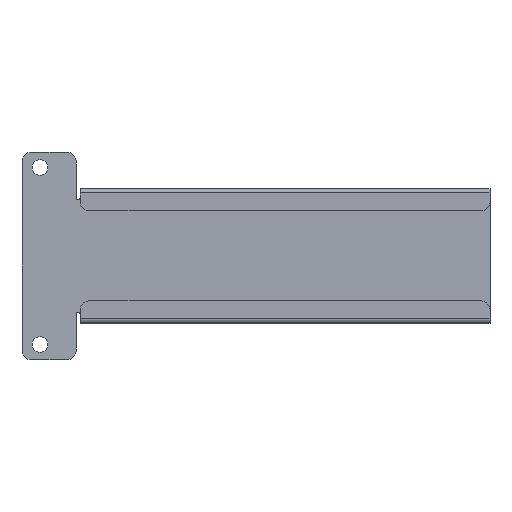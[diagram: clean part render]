
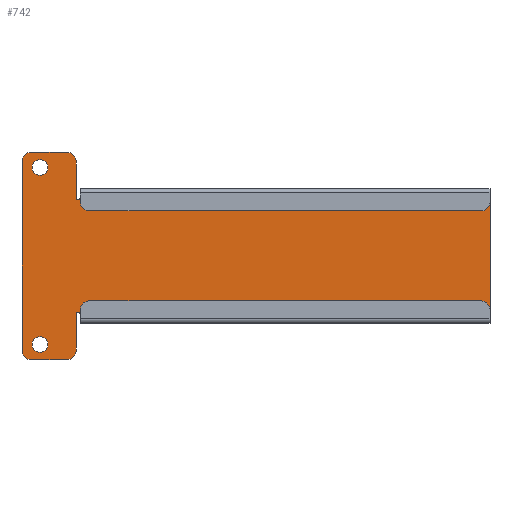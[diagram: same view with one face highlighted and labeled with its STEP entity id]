
A CAD part, top view. The second image highlights one B-rep face of the part: STEP entity #742.
In plain terms, the highlighted planar face has unit normal (0, 0, 1).
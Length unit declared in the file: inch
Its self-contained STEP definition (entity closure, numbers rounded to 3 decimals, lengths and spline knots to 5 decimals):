
#79=CARTESIAN_POINT('',(0.25,0.21,0.062));
#80=DIRECTION('',(0.,0.,-1.));
#81=DIRECTION('',(1.,0.,0.));
#82=AXIS2_PLACEMENT_3D('',#79,#80,#81);
#84=CARTESIAN_POINT('',(0.25,0.21,0.062));
#85=DIRECTION('',(0.,0.,-1.));
#86=DIRECTION('',(-1.,0.,0.));
#87=AXIS2_PLACEMENT_3D('',#84,#85,#86);
#89=CARTESIAN_POINT('',(0.25,2.67,0.062));
#90=DIRECTION('',(0.,0.,-1.));
#91=DIRECTION('',(1.,0.,0.));
#92=AXIS2_PLACEMENT_3D('',#89,#90,#91);
#94=CARTESIAN_POINT('',(0.25,2.67,0.062));
#95=DIRECTION('',(0.,0.,-1.));
#96=DIRECTION('',(-1.,0.,0.));
#97=AXIS2_PLACEMENT_3D('',#94,#95,#96);
#99=DIRECTION('',(-1.,0.,0.));
#100=VECTOR('',#99,0.51);
#101=CARTESIAN_POINT('',(0.63,2.88,0.062));
#102=LINE('',#101,#100);
#103=DIRECTION('',(0.,1.,0.));
#104=VECTOR('',#103,0.508);
#105=CARTESIAN_POINT('',(0.75,2.252,0.062));
#106=LINE('',#105,#104);
#107=CARTESIAN_POINT('',(0.78,2.252,0.062));
#108=DIRECTION('',(0.,0.,-1.));
#109=DIRECTION('',(1.,0.,0.));
#110=AXIS2_PLACEMENT_3D('',#107,#108,#109);
#112=DIRECTION('',(0.,-1.,0.));
#113=VECTOR('',#112,0.063);
#114=CARTESIAN_POINT('',(0.81,2.315,0.062));
#115=LINE('',#114,#113);
#116=DIRECTION('',(-1.,0.,0.));
#117=VECTOR('',#116,5.69);
#118=CARTESIAN_POINT('',(6.5,2.315,0.062));
#119=LINE('',#118,#117);
#120=DIRECTION('',(0.,1.,0.));
#121=VECTOR('',#120,1.75);
#122=CARTESIAN_POINT('',(6.5,0.565,0.062));
#123=LINE('',#122,#121);
#124=DIRECTION('',(-1.,0.,0.));
#125=VECTOR('',#124,5.69);
#126=CARTESIAN_POINT('',(6.5,0.565,0.062));
#127=LINE('',#126,#125);
#128=DIRECTION('',(0.,-1.,0.));
#129=VECTOR('',#128,0.063);
#130=CARTESIAN_POINT('',(0.81,0.628,0.062));
#131=LINE('',#130,#129);
#132=CARTESIAN_POINT('',(0.78,0.628,0.062));
#133=DIRECTION('',(0.,0.,-1.));
#134=DIRECTION('',(-1.,0.,0.));
#135=AXIS2_PLACEMENT_3D('',#132,#133,#134);
#137=DIRECTION('',(0.,1.,0.));
#138=VECTOR('',#137,0.508);
#139=CARTESIAN_POINT('',(0.75,0.12,0.062));
#140=LINE('',#139,#138);
#141=DIRECTION('',(1.,0.,0.));
#142=VECTOR('',#141,0.51);
#143=CARTESIAN_POINT('',(0.12,0.,0.062));
#144=LINE('',#143,#142);
#145=DIRECTION('',(0.,-1.,0.));
#146=VECTOR('',#145,2.64);
#147=CARTESIAN_POINT('',(0.,2.76,0.062));
#148=LINE('',#147,#146);
#161=CARTESIAN_POINT('',(0.12,2.76,0.062));
#162=DIRECTION('',(0.,0.,1.));
#163=DIRECTION('',(0.,1.,0.));
#164=AXIS2_PLACEMENT_3D('',#161,#162,#163);
#179=CARTESIAN_POINT('',(0.63,2.76,0.062));
#180=DIRECTION('',(0.,0.,1.));
#181=DIRECTION('',(1.,0.,0.));
#182=AXIS2_PLACEMENT_3D('',#179,#180,#181);
#437=CARTESIAN_POINT('',(0.63,0.12,0.062));
#438=DIRECTION('',(0.,0.,1.));
#439=DIRECTION('',(0.,-1.,0.));
#440=AXIS2_PLACEMENT_3D('',#437,#438,#439);
#455=CARTESIAN_POINT('',(0.12,0.12,0.062));
#456=DIRECTION('',(0.,0.,1.));
#457=DIRECTION('',(-1.,0.,0.));
#458=AXIS2_PLACEMENT_3D('',#455,#456,#457);
#485=CARTESIAN_POINT('',(0.359,0.21,0.062));
#486=CARTESIAN_POINT('',(0.141,0.21,0.062));
#487=VERTEX_POINT('',#485);
#488=VERTEX_POINT('',#486);
#489=CARTESIAN_POINT('',(0.359,2.67,0.062));
#490=CARTESIAN_POINT('',(0.141,2.67,0.062));
#491=VERTEX_POINT('',#489);
#492=VERTEX_POINT('',#490);
#493=CARTESIAN_POINT('',(0.75,0.628,0.062));
#494=CARTESIAN_POINT('',(0.81,0.628,0.062));
#495=VERTEX_POINT('',#493);
#496=VERTEX_POINT('',#494);
#497=CARTESIAN_POINT('',(0.81,2.252,0.062));
#498=CARTESIAN_POINT('',(0.75,2.252,0.062));
#499=VERTEX_POINT('',#497);
#500=VERTEX_POINT('',#498);
#521=CARTESIAN_POINT('',(6.5,2.315,0.062));
#522=CARTESIAN_POINT('',(0.81,2.315,0.062));
#523=VERTEX_POINT('',#521);
#524=VERTEX_POINT('',#522);
#527=CARTESIAN_POINT('',(6.5,0.565,0.062));
#528=VERTEX_POINT('',#527);
#547=CARTESIAN_POINT('',(0.81,0.565,0.062));
#548=VERTEX_POINT('',#547);
#549=CARTESIAN_POINT('',(0.12,2.88,0.062));
#551=VERTEX_POINT('',#549);
#553=CARTESIAN_POINT('',(0.,2.76,0.062));
#554=VERTEX_POINT('',#553);
#557=CARTESIAN_POINT('',(0.75,2.76,0.062));
#559=VERTEX_POINT('',#557);
#561=CARTESIAN_POINT('',(0.63,2.88,0.062));
#562=VERTEX_POINT('',#561);
#565=CARTESIAN_POINT('',(0.,0.12,0.062));
#567=VERTEX_POINT('',#565);
#569=CARTESIAN_POINT('',(0.12,0.,0.062));
#570=VERTEX_POINT('',#569);
#573=CARTESIAN_POINT('',(0.63,0.,0.062));
#575=VERTEX_POINT('',#573);
#577=CARTESIAN_POINT('',(0.75,0.12,0.062));
#578=VERTEX_POINT('',#577);
#693=CARTESIAN_POINT('',(0.,0.,0.062));
#694=DIRECTION('',(0.,0.,1.));
#695=DIRECTION('',(1.,0.,0.));
#696=AXIS2_PLACEMENT_3D('',#693,#694,#695);
#697=PLANE('',#696);
#699=ORIENTED_EDGE('',*,*,#698,.F.);
#701=ORIENTED_EDGE('',*,*,#700,.F.);
#703=ORIENTED_EDGE('',*,*,#702,.F.);
#705=ORIENTED_EDGE('',*,*,#704,.F.);
#707=ORIENTED_EDGE('',*,*,#706,.F.);
#709=ORIENTED_EDGE('',*,*,#708,.F.);
#711=ORIENTED_EDGE('',*,*,#710,.F.);
#713=ORIENTED_EDGE('',*,*,#712,.F.);
#715=ORIENTED_EDGE('',*,*,#714,.T.);
#717=ORIENTED_EDGE('',*,*,#716,.F.);
#719=ORIENTED_EDGE('',*,*,#718,.F.);
#721=ORIENTED_EDGE('',*,*,#720,.F.);
#723=ORIENTED_EDGE('',*,*,#722,.F.);
#725=ORIENTED_EDGE('',*,*,#724,.F.);
#727=ORIENTED_EDGE('',*,*,#726,.F.);
#729=ORIENTED_EDGE('',*,*,#728,.F.);
#730=EDGE_LOOP('',(#699,#701,#703,#705,#707,#709,#711,#713,#715,#717,#719,#721,
#723,#725,#727,#729));
#731=FACE_OUTER_BOUND('',#730,.F.);
#733=ORIENTED_EDGE('',*,*,#732,.F.);
#735=ORIENTED_EDGE('',*,*,#734,.F.);
#736=EDGE_LOOP('',(#733,#735));
#737=FACE_BOUND('',#736,.F.);
#738=ORIENTED_EDGE('',*,*,#673,.F.);
#739=ORIENTED_EDGE('',*,*,#687,.F.);
#740=EDGE_LOOP('',(#738,#739));
#741=FACE_BOUND('',#740,.F.);
#742=ADVANCED_FACE('',(#731,#737,#741),#697,.T.);
#83=CIRCLE('',#82,0.109);
#88=CIRCLE('',#87,0.109);
#93=CIRCLE('',#92,0.109);
#98=CIRCLE('',#97,0.109);
#111=CIRCLE('',#110,0.03);
#136=CIRCLE('',#135,0.03);
#165=CIRCLE('',#164,0.12);
#183=CIRCLE('',#182,0.12);
#441=CIRCLE('',#440,0.12);
#459=CIRCLE('',#458,0.12);
#673=EDGE_CURVE('',#487,#488,#83,.T.);
#687=EDGE_CURVE('',#488,#487,#88,.T.);
#698=EDGE_CURVE('',#551,#554,#165,.T.);
#700=EDGE_CURVE('',#562,#551,#102,.T.);
#702=EDGE_CURVE('',#559,#562,#183,.T.);
#704=EDGE_CURVE('',#500,#559,#106,.T.);
#706=EDGE_CURVE('',#499,#500,#111,.T.);
#708=EDGE_CURVE('',#524,#499,#115,.T.);
#710=EDGE_CURVE('',#523,#524,#119,.T.);
#712=EDGE_CURVE('',#528,#523,#123,.T.);
#714=EDGE_CURVE('',#528,#548,#127,.T.);
#716=EDGE_CURVE('',#496,#548,#131,.T.);
#718=EDGE_CURVE('',#495,#496,#136,.T.);
#720=EDGE_CURVE('',#578,#495,#140,.T.);
#722=EDGE_CURVE('',#575,#578,#441,.T.);
#724=EDGE_CURVE('',#570,#575,#144,.T.);
#726=EDGE_CURVE('',#567,#570,#459,.T.);
#728=EDGE_CURVE('',#554,#567,#148,.T.);
#732=EDGE_CURVE('',#491,#492,#93,.T.);
#734=EDGE_CURVE('',#492,#491,#98,.T.);
